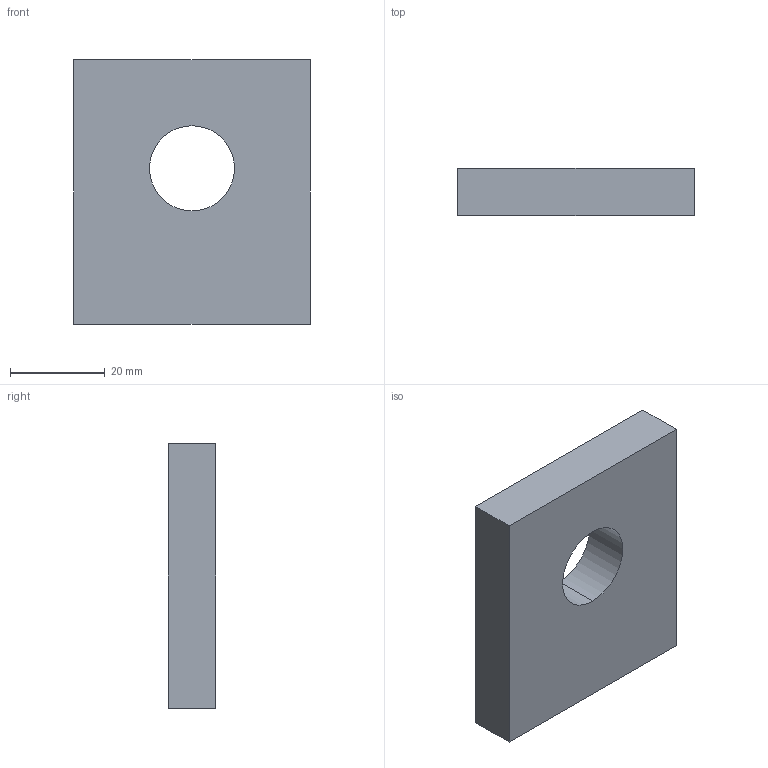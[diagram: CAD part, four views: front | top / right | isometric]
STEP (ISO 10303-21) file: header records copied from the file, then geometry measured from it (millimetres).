
FILE_DESCRIPTION (( 'STEP AP203' ), '1' );
FILE_NAME ('1105056.STEP', '2020-01-09T14:16:56', ( '' ), ( '' ), 'SwSTEP 2.0', 'SolidWorks 2013', '' );
FILE_SCHEMA (( 'CONFIG_CONTROL_DESIGN' ));
Length unit declared in the file: millimetre
Products named in the file (1): 1105056
Bounding box: 50 x 10 x 56 mm (x, y, z)
Volume: 25455.3 mm3; surface area: 7776.5 mm2
Topology: 1 solids, 1 shells, 8 faces, 18 edges, 12 vertices
Faces by surface type: plane 6, cylinder 2
Entity records: 307 total; most frequent: DIRECTION 40, CARTESIAN_POINT 39, ORIENTED_EDGE 36, EDGE_CURVE 18, LINE 14, VECTOR 14, AXIS2_PLACEMENT_3D 13, VERTEX_POINT 12
